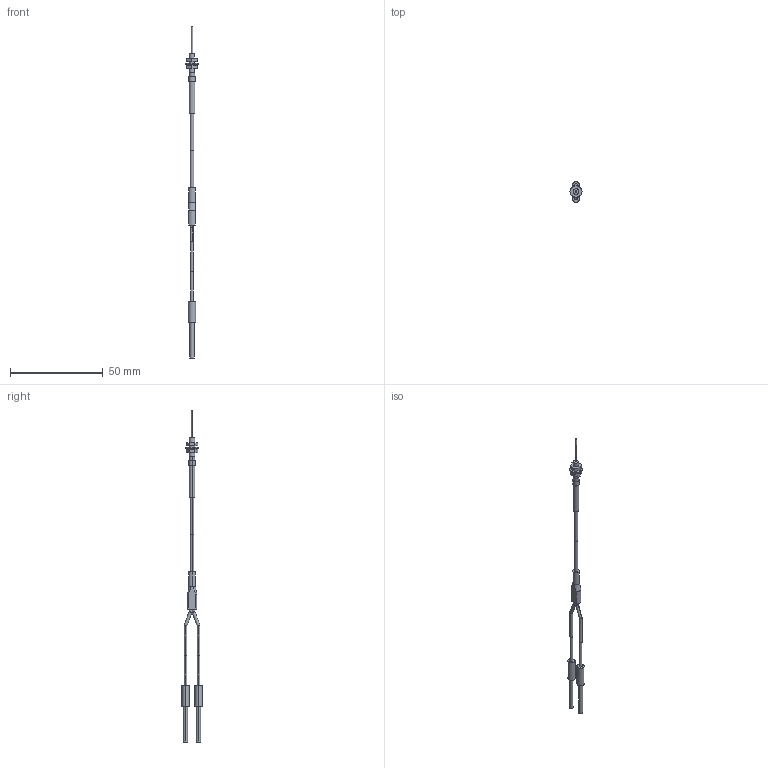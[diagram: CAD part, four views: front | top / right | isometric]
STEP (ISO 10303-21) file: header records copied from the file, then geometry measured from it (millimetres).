
FILE_DESCRIPTION (( 'STEP AP203' ), '1' );
FILE_NAME ('FD-ENM1S1.STEP', '2005-09-04T09:26:21', ( '川島良英' ), ( ' ' ), 'SwSTEP 2.0', 'SolidWorks 2004251', '' );
FILE_SCHEMA (( 'CONFIG_CONTROL_DESIGN' ));
Length unit declared in the file: millimetre
Products named in the file (1): FD-ENM1S1
Bounding box: 6.5 x 11 x 178.5 mm (x, y, z)
Volume: 1393.1 mm3; surface area: 2293 mm2
Topology: 10 solids, 10 shells, 98 faces, 196 edges, 128 vertices
Faces by surface type: cylinder 51, plane 45, cone 2
Entity records: 2677 total; most frequent: CARTESIAN_POINT 511, DIRECTION 464, ORIENTED_EDGE 392, EDGE_CURVE 196, AXIS2_PLACEMENT_3D 185, VERTEX_POINT 128, EDGE_LOOP 114, ADVANCED_FACE 98
